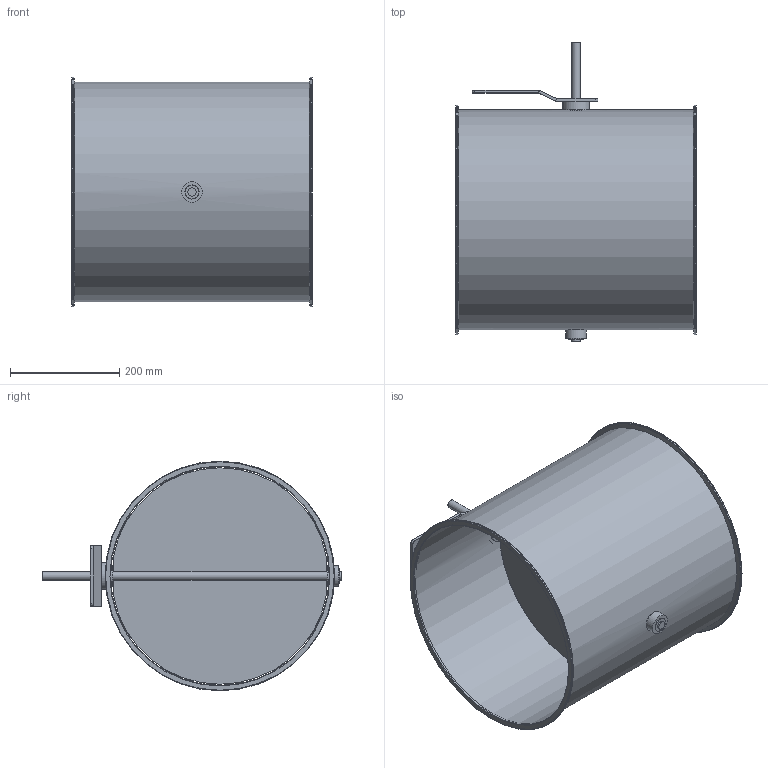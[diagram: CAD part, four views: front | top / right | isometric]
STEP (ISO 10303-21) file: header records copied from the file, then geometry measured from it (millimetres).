
FILE_DESCRIPTION(/* description */ (''),/* implementation_level */ '2;1');
FILE_NAME(/* name */ 'EA108-80B__400_L440_Belimo_Typen_NF_SF.stp',/* time_stamp */ '2017-12-06T15:38:50+01:00',/* author */ (''),/* organization */ (''),/* preprocessor_version */ 'ST-DEVELOPER v11',/* originating_system */ 'SIEMENS UGS NX 6.0',/* authorisation */ '');
FILE_SCHEMA (('CONFIG_CONTROL_DESIGN'));
Length unit declared in the file: millimetre
Products named in the file (1): gars18E2j2gv
Bounding box: 440 x 546 x 420 mm (x, y, z)
Volume: 1057496.2 mm3; surface area: 1498567.7 mm2
Topology: 8 solids, 8 shells, 78 faces, 164 edges, 104 vertices
Faces by surface type: plane 36, cylinder 34, torus 6, cone 2
Full cylindrical faces by diameter (mm): 6.1 x6, 15 x3, 25 x3, 25.85 x2, 26 x2, 38 x3, 49 x1, 400 x1, 402 x1, 420 x2
Entity records: 2028 total; most frequent: CARTESIAN_POINT 363, DIRECTION 346, ORIENTED_EDGE 244, AXIS2_PLACEMENT_3D 149, EDGE_LOOP 140, EDGE_CURVE 122, FACE_BOUND 110, VERTEX_POINT 94
